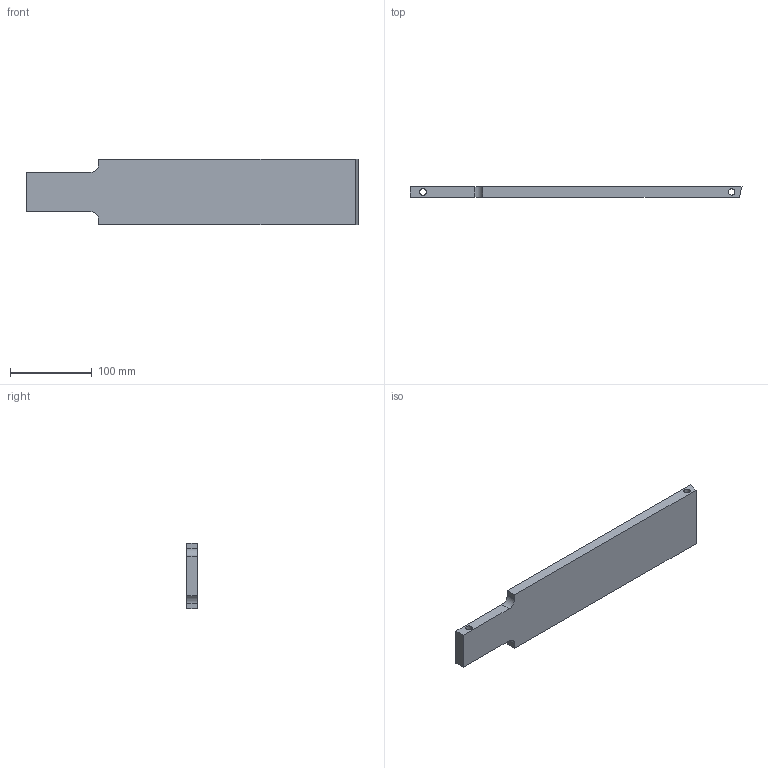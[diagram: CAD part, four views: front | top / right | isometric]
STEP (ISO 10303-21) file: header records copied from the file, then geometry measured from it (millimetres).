
FILE_DESCRIPTION (( 'STEP AP203' ), '1' );
FILE_NAME ('269-18-405.STEP', '2020-03-02T20:55:29', ( '' ), ( '' ), 'SwSTEP 2.0', 'SolidWorks 2017', '' );
FILE_SCHEMA (( 'CONFIG_CONTROL_DESIGN' ));
Length unit declared in the file: inch
Products named in the file (1): 269-18-405
Bounding box: 406.4 x 12.7 x 80.26 mm (x, y, z)
Volume: 370257.7 mm3; surface area: 74558.7 mm2
Topology: 1 solids, 1 shells, 16 faces, 42 edges, 28 vertices
Faces by surface type: plane 10, cylinder 6
Entity records: 585 total; most frequent: DIRECTION 88, CARTESIAN_POINT 87, ORIENTED_EDGE 84, EDGE_CURVE 42, VECTOR 30, LINE 30, AXIS2_PLACEMENT_3D 29, VERTEX_POINT 28
